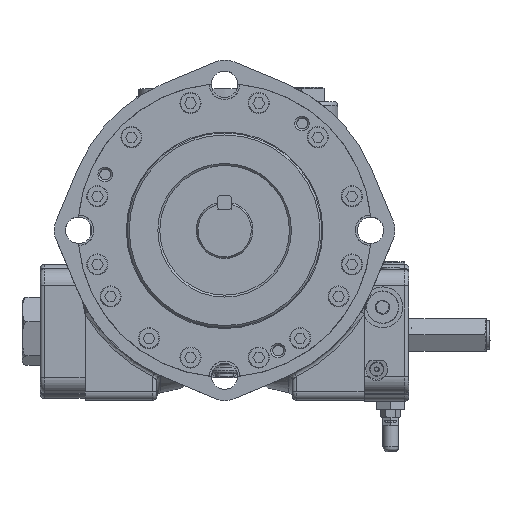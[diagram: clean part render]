
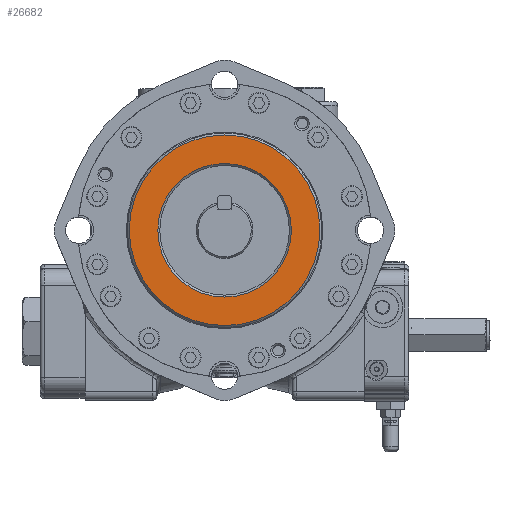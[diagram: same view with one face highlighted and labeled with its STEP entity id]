
A CAD part, top view. The second image highlights one B-rep face of the part: STEP entity #26682.
In plain terms, the highlighted planar face has unit normal (0, 0, 1).
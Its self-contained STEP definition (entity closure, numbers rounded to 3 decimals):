
#1224=FACE_BOUND('',#7483,.T.);
#5722=FACE_OUTER_BOUND('',#7482,.T.);
#7482=EDGE_LOOP('',(#19348));
#7483=EDGE_LOOP('',(#19349));
#9358=CIRCLE('',#28864,74.663);
#9359=CIRCLE('',#28866,52.292);
#10870=VERTEX_POINT('',#49584);
#10871=VERTEX_POINT('',#49587);
#14177=EDGE_CURVE('',#10870,#10870,#9358,.T.);
#14178=EDGE_CURVE('',#10871,#10871,#9359,.T.);
#19348=ORIENTED_EDGE('',*,*,#14177,.F.);
#19349=ORIENTED_EDGE('',*,*,#14178,.F.);
#23994=PLANE('',#28865);
#26682=ADVANCED_FACE('',(#5722,#1224),#23994,.F.);
#28864=AXIS2_PLACEMENT_3D('',#49585,#33044,#33045);
#28865=AXIS2_PLACEMENT_3D('',#49586,#33046,#33047);
#28866=AXIS2_PLACEMENT_3D('',#49588,#33048,#33049);
#33044=DIRECTION('center_axis',(0.,0.,
-1.));
#33045=DIRECTION('ref_axis',(1.,0.,0.));
#33046=DIRECTION('center_axis',(0.,0.,
-1.));
#33047=DIRECTION('ref_axis',(0.,1.,0.));
#33048=DIRECTION('center_axis',(0.,0.,
1.));
#33049=DIRECTION('ref_axis',(1.,0.,0.));
#49584=CARTESIAN_POINT('',(-74.663,0.,12.497));
#49585=CARTESIAN_POINT('Origin',(0.,0.,
12.497));
#49586=CARTESIAN_POINT('Origin',(-25.384,0.,
12.497));
#49587=CARTESIAN_POINT('',(-52.292,0.,12.497));
#49588=CARTESIAN_POINT('Origin',(0.,0.,
12.497));
